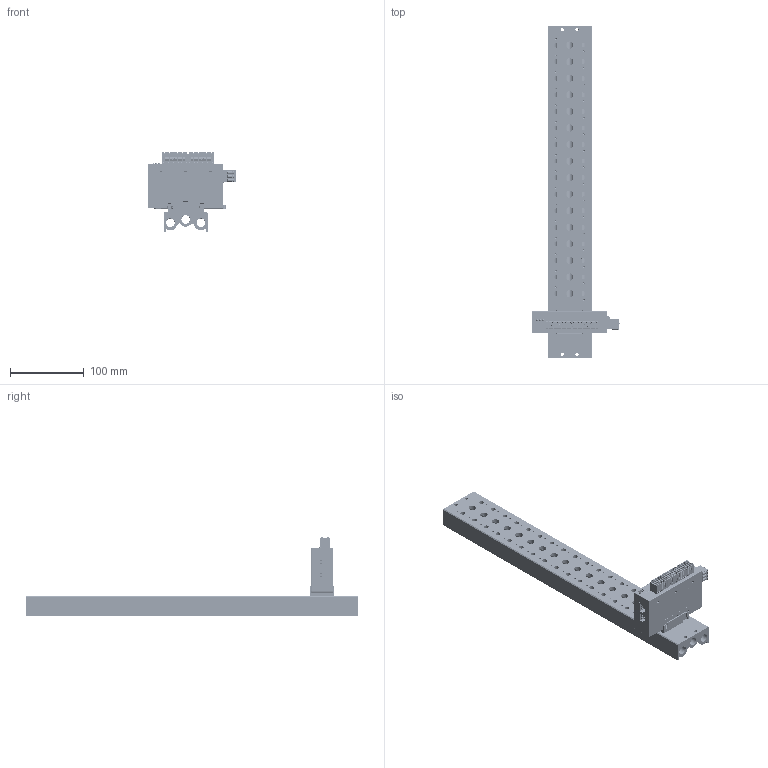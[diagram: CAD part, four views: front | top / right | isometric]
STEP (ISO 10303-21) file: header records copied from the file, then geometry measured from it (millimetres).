
FILE_DESCRIPTION(/* description */ (''),/* implementation_level */ '2;1');
FILE_NAME(/* name */ '',/* time_stamp */ '2025-10-09T16:51:39+08:00',/* author */ (''),/* organization */ (''),/* preprocessor_version */ 'ST-DEVELOPER v14',/* originating_system */ 'SIEMENS PLM Software NX 8.0',/* authorisation */ '');
FILE_SCHEMA (('AP203_CONFIGURATION_CONTROLLED_3D_DESIGN_OF_MECHANICAL_PARTS_AND_ASSEMBLIES_MIM_LF { 1 0 10303 403 2 1 2}'));
Products named in the file (1): DELL3E5857E9udr1
Bounding box: 119.8 x 451 x 108.48 mm (x, y, z)
Volume: 610511.3 mm3; surface area: 200499.9 mm2
Topology: 2 solids, 228 shells, 9837 faces, 26046 edges, 16966 vertices
Faces by surface type: plane 6417, cylinder 2316, torus 336, bspline 328, cone 253, sphere 95, extrusion 92
Full cylindrical faces by diameter (mm): 0.18 x2, 2.5 x37, 3.05 x40, 3.3 x3, 3.5 x4, 4 x3, 4.5 x4, 6 x4, 6.5 x32, 10 x16, 11.492 x2, 11.5 x5, 11.8 x6
Entity records: 324643 total; most frequent: CARTESIAN_POINT 82653, ORIENTED_EDGE 50814, DIRECTION 48441, EDGE_CURVE 25407, VECTOR 18103, LINE 18011, VERTEX_POINT 16795, AXIS2_PLACEMENT_3D 15169
